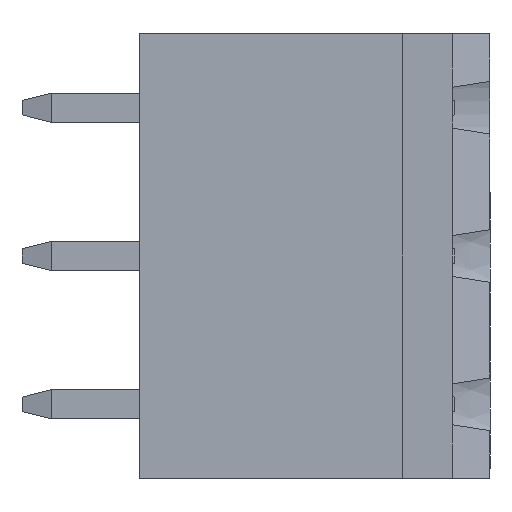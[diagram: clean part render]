
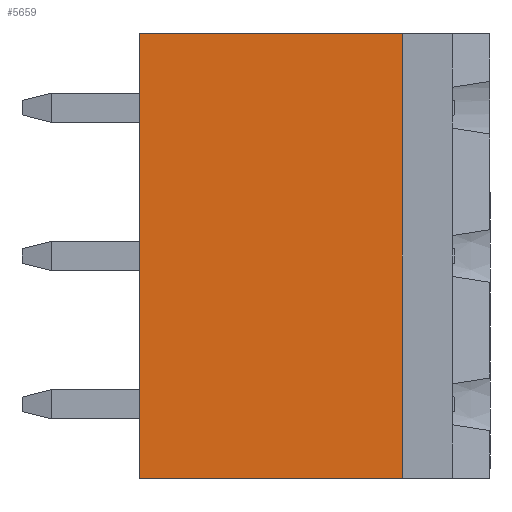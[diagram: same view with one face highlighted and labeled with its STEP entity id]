
A CAD part, left-side view. The second image highlights one B-rep face of the part: STEP entity #5659.
In plain terms, the highlighted planar face has unit normal (-1, 0, 0).
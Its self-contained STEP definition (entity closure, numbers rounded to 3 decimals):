
#35 = VECTOR ( 'NONE', #5502, 1000. ) ;
#390 = VERTEX_POINT ( 'NONE', #7881 ) ;
#723 = CARTESIAN_POINT ( 'NONE',  ( -3.9, 12., 0. ) ) ;
#824 = CARTESIAN_POINT ( 'NONE',  ( -3.9, 3., 15.24 ) ) ;
#1102 = LINE ( 'NONE', #4886, #35 ) ;
#1113 = VERTEX_POINT ( 'NONE', #3260 ) ;
#1440 = ORIENTED_EDGE ( 'NONE', *, *, #3053, .F. ) ;
#1546 = DIRECTION ( 'NONE',  ( -1., 0., 0. ) ) ;
#2018 = EDGE_LOOP ( 'NONE', ( #3718, #1440, #4667, #6549 ) ) ;
#2129 = VECTOR ( 'NONE', #2233, 1000. ) ;
#2233 = DIRECTION ( 'NONE',  ( 0., -1., 0. ) ) ;
#2286 = VERTEX_POINT ( 'NONE', #4641 ) ;
#2334 = LINE ( 'NONE', #723, #5874 ) ;
#2779 = DIRECTION ( 'NONE',  ( 0., 0., -1. ) ) ;
#3030 = AXIS2_PLACEMENT_3D ( 'NONE', #7131, #1546, #5754 ) ;
#3053 = EDGE_CURVE ( 'NONE', #1113, #6576, #4658, .T. ) ;
#3205 = DIRECTION ( 'NONE',  ( 0., 0., 1. ) ) ;
#3260 = CARTESIAN_POINT ( 'NONE',  ( -3.9, 3., 15.24 ) ) ;
#3302 = FACE_OUTER_BOUND ( 'NONE', #2018, .T. ) ;
#3718 = ORIENTED_EDGE ( 'NONE', *, *, #4571, .T. ) ;
#4571 = EDGE_CURVE ( 'NONE', #390, #6576, #4726, .T. ) ;
#4641 = CARTESIAN_POINT ( 'NONE',  ( -3.9, 12., 15.24 ) ) ;
#4651 = PLANE ( 'NONE',  #3030 ) ;
#4658 = LINE ( 'NONE', #824, #5477 ) ;
#4667 = ORIENTED_EDGE ( 'NONE', *, *, #4729, .F. ) ;
#4726 = LINE ( 'NONE', #7203, #2129 ) ;
#4729 = EDGE_CURVE ( 'NONE', #2286, #1113, #1102, .T. ) ;
#4886 = CARTESIAN_POINT ( 'NONE',  ( -3.9, 12., 15.24 ) ) ;
#5477 = VECTOR ( 'NONE', #2779, 1000. ) ;
#5502 = DIRECTION ( 'NONE',  ( 0., -1., 0. ) ) ;
#5530 = CARTESIAN_POINT ( 'NONE',  ( -3.9, 3., 0. ) ) ;
#5659 = ADVANCED_FACE ( 'NONE', ( #3302 ), #4651, .T. ) ;
#5754 = DIRECTION ( 'NONE',  ( 0., 0., 1. ) ) ;
#5874 = VECTOR ( 'NONE', #3205, 1000. ) ;
#6549 = ORIENTED_EDGE ( 'NONE', *, *, #7115, .F. ) ;
#6576 = VERTEX_POINT ( 'NONE', #5530 ) ;
#7115 = EDGE_CURVE ( 'NONE', #390, #2286, #2334, .T. ) ;
#7131 = CARTESIAN_POINT ( 'NONE',  ( -3.9, 12., 0. ) ) ;
#7203 = CARTESIAN_POINT ( 'NONE',  ( -3.9, 12., 0. ) ) ;
#7881 = CARTESIAN_POINT ( 'NONE',  ( -3.9, 12., 0. ) ) ;
